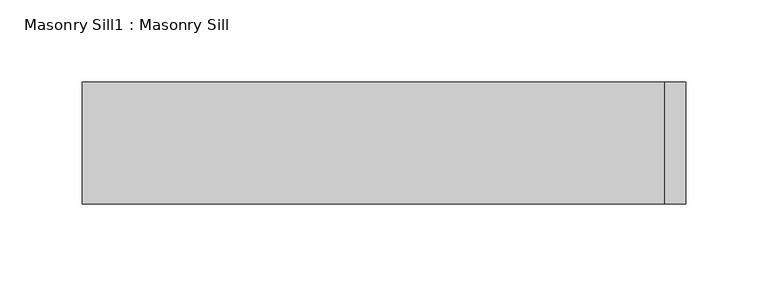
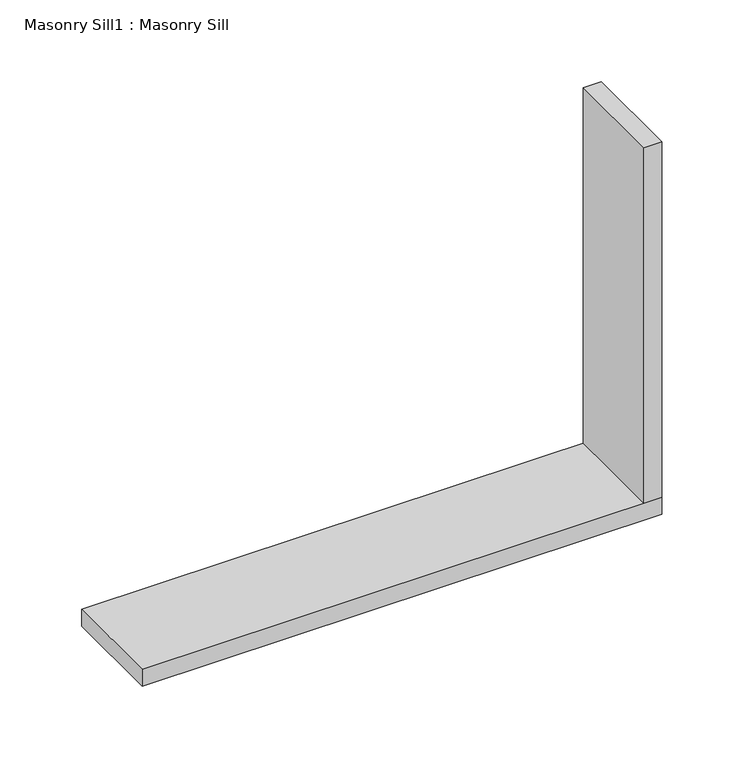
"""IFC4 building model written with IfcOpenShell, lengths in millimetres: proxy geometry, Masonry Sill1 : Masonry Sill."""

from ifc_helpers import new_model, si_unit, frame, origin, place, context, project, spatial, polyline, outline, extrude, source, transform, mapped, element, save


def masonry_sill1_masonry_sill_7a2f01fb(model_context):
    return source(origin(), model_context, "Body", "SweptSolid", [
        extrude(outline(polyline([(26855.8851773, 656.2066297), (26843.1851773, 656.2066297), (26843.1851773, 730.1774531), (26855.8851773, 730.1774531), (26855.8851773, 656.2066297)])), frame((0.0, 0.0, 471.4875), z_axis=(0.0, 0.0, 1.0), x_axis=(1.0, 0.0, 0.0)), (0.0, 0.0, 1.0), 265.1125),
        extrude(outline(polyline([(26489.1726773, 656.2066297), (26489.1726773, 730.1774531), (26855.8851773, 730.1774531), (26855.8851773, 656.2066297), (26489.1726773, 656.2066297)])), frame((0.0, 0.0, 458.7875), z_axis=(0.0, 0.0, 1.0), x_axis=(1.0, 0.0, 0.0)), (0.0, 0.0, 1.0), 12.7),
    ])


if __name__ == "__main__":
    model = new_model("IFC4")
    model_context = context("Model", 3, world=origin())
    ifc_project = project(units=[si_unit("LENGTHUNIT", "METRE", prefix="MILLI")], contexts=[model_context])
    site = spatial("IfcSite", under=ifc_project)
    building = spatial("IfcBuilding", under=site)
    placement = place(None, origin())
    masonry_sill1_masonry_sill_shape = masonry_sill1_masonry_sill_7a2f01fb(model_context)
    element("IfcBuildingElementProxy", 1, Name="Masonry Sill1 : Masonry Sill", ObjectType="Masonry Sill1 : Masonry Sill", at=placement, inside=building, context=model_context, shape_type="MappedRepresentation", body=[
        mapped(masonry_sill1_masonry_sill_shape, transform((0.0, 0.0, 0.0), x_axis=(1.0, 0.0, 0.0), y_axis=(0.0, 1.0, 0.0), z_axis=(0.0, 0.0, 1.0))),
    ])
    save(model, "model.ifc")
